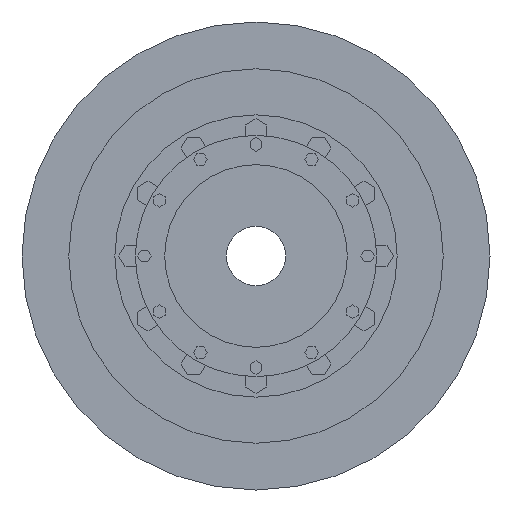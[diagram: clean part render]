
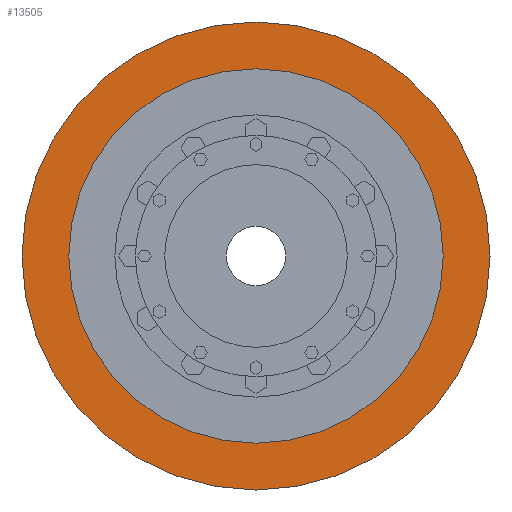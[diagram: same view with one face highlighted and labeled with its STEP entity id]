
A CAD part, left-side view. The second image highlights one B-rep face of the part: STEP entity #13505.
In plain terms, the highlighted planar face has unit normal (-1, 0, 0).
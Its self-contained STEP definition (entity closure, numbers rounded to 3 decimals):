
#13302=CARTESIAN_POINT('',(-6.35,0.,0.));
#13303=DIRECTION('',(-1.,0.,0.));
#13304=DIRECTION('',(0.,1.,0.));
#13305=AXIS2_PLACEMENT_3D('',#13302,#13303,#13304);
#13307=CARTESIAN_POINT('',(-6.35,0.,0.));
#13308=DIRECTION('',(1.,0.,0.));
#13309=DIRECTION('',(0.,1.,0.));
#13310=AXIS2_PLACEMENT_3D('',#13307,#13308,#13309);
#13312=CARTESIAN_POINT('',(-6.35,0.,0.));
#13313=DIRECTION('',(1.,0.,0.));
#13314=DIRECTION('',(0.,1.,0.));
#13315=AXIS2_PLACEMENT_3D('',#13312,#13313,#13314);
#13325=CARTESIAN_POINT('',(-6.35,0.,0.));
#13326=DIRECTION('',(-1.,0.,0.));
#13327=DIRECTION('',(0.,1.,0.));
#13328=AXIS2_PLACEMENT_3D('',#13325,#13326,#13327);
#13348=CARTESIAN_POINT('',(-6.35,205.6,0.));
#13350=VERTEX_POINT('',#13348);
#13360=CARTESIAN_POINT('',(-6.35,-205.6,0.));
#13362=VERTEX_POINT('',#13360);
#13365=CARTESIAN_POINT('',(-6.35,257.,0.));
#13367=VERTEX_POINT('',#13365);
#13369=CARTESIAN_POINT('',(-6.35,-257.,0.));
#13371=VERTEX_POINT('',#13369);
#13490=CARTESIAN_POINT('',(-6.35,0.,0.));
#13491=DIRECTION('',(1.,0.,0.));
#13492=DIRECTION('',(0.,-1.,0.));
#13493=AXIS2_PLACEMENT_3D('',#13490,#13491,#13492);
#13494=PLANE('',#13493);
#13495=ORIENTED_EDGE('',*,*,#13483,.F.);
#13496=ORIENTED_EDGE('',*,*,#13472,.T.);
#13497=EDGE_LOOP('',(#13495,#13496));
#13498=FACE_OUTER_BOUND('',#13497,.F.);
#13500=ORIENTED_EDGE('',*,*,#13499,.F.);
#13502=ORIENTED_EDGE('',*,*,#13501,.T.);
#13503=EDGE_LOOP('',(#13500,#13502));
#13504=FACE_BOUND('',#13503,.F.);
#13505=ADVANCED_FACE('',(#13498,#13504),#13494,.F.);
#13306=CIRCLE('',#13305,257.);
#13311=CIRCLE('',#13310,257.);
#13316=CIRCLE('',#13315,205.6);
#13329=CIRCLE('',#13328,205.6);
#13472=EDGE_CURVE('',#13367,#13371,#13311,.T.);
#13483=EDGE_CURVE('',#13367,#13371,#13306,.T.);
#13499=EDGE_CURVE('',#13350,#13362,#13316,.T.);
#13501=EDGE_CURVE('',#13350,#13362,#13329,.T.);
